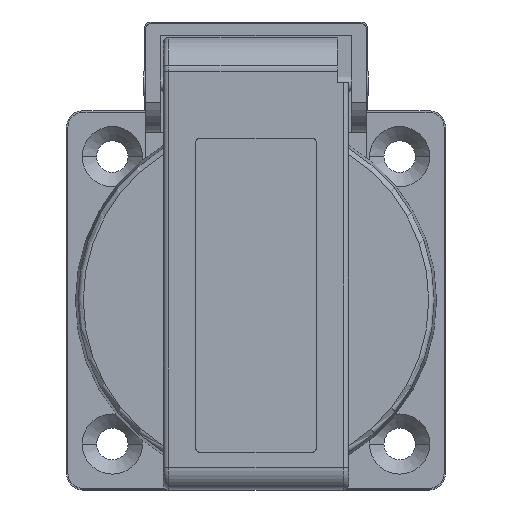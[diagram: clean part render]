
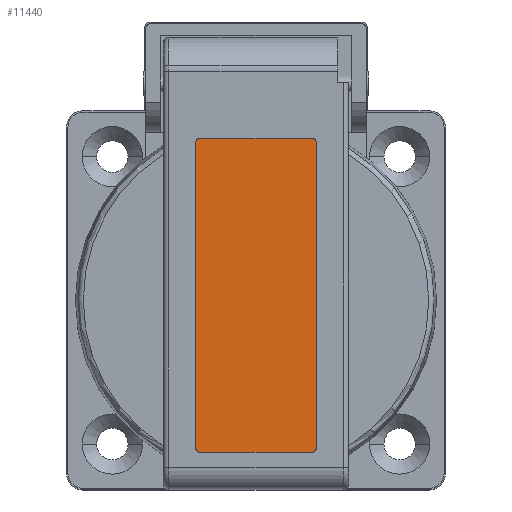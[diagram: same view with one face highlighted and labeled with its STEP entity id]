
A CAD part, top view. The second image highlights one B-rep face of the part: STEP entity #11440.
In plain terms, the highlighted planar face has unit normal (0, 0, 1).
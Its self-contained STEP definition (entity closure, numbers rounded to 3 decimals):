
#4236=CARTESIAN_POINT('',(-7.5,-19.7,13.8));
#4237=DIRECTION('',(0.,0.,1.));
#4238=DIRECTION('',(-1.,0.,0.));
#4239=AXIS2_PLACEMENT_3D('',#4236,#4237,#4238);
#4244=DIRECTION('',(0.,-1.,0.));
#4245=VECTOR('',#4244,40.7);
#4246=CARTESIAN_POINT('',(-8.,21.,13.8));
#4247=LINE('1462',#4246,#4245);
#4251=CARTESIAN_POINT('',(-7.5,21.,13.8));
#4252=DIRECTION('',(0.,0.,1.));
#4253=DIRECTION('',(0.,1.,0.));
#4254=AXIS2_PLACEMENT_3D('',#4251,#4252,#4253);
#4259=DIRECTION('',(-1.,0.,0.));
#4260=VECTOR('',#4259,15.);
#4261=CARTESIAN_POINT('',(7.5,21.5,13.8));
#4262=LINE('1461',#4261,#4260);
#4266=CARTESIAN_POINT('',(7.5,21.,13.8));
#4267=DIRECTION('',(0.,0.,1.));
#4268=DIRECTION('',(1.,0.,0.));
#4269=AXIS2_PLACEMENT_3D('',#4266,#4267,#4268);
#4274=DIRECTION('',(0.,1.,0.));
#4275=VECTOR('',#4274,40.7);
#4276=CARTESIAN_POINT('',(8.,-19.7,13.8));
#4277=LINE('1460',#4276,#4275);
#4281=CARTESIAN_POINT('',(7.5,-19.7,13.8));
#4282=DIRECTION('',(0.,0.,1.));
#4283=DIRECTION('',(0.,-1.,0.));
#4284=AXIS2_PLACEMENT_3D('',#4281,#4282,#4283);
#4289=DIRECTION('',(1.,0.,0.));
#4290=VECTOR('',#4289,15.);
#4291=CARTESIAN_POINT('',(-7.5,-20.2,13.8));
#4292=LINE('1459',#4291,#4290);
#6819=CARTESIAN_POINT('',(-8.,-19.7,13.8));
#6820=CARTESIAN_POINT('',(-7.5,-20.2,13.8));
#6821=VERTEX_POINT('',#6819);
#6822=VERTEX_POINT('',#6820);
#6827=CARTESIAN_POINT('',(7.5,-20.2,13.8));
#6828=CARTESIAN_POINT('',(8.,-19.7,13.8));
#6829=VERTEX_POINT('',#6827);
#6830=VERTEX_POINT('',#6828);
#6835=CARTESIAN_POINT('',(-7.5,21.5,13.8));
#6836=CARTESIAN_POINT('',(-8.,21.,13.8));
#6837=VERTEX_POINT('',#6835);
#6838=VERTEX_POINT('',#6836);
#6843=CARTESIAN_POINT('',(8.,21.,13.8));
#6844=CARTESIAN_POINT('',(7.5,21.5,13.8));
#6845=VERTEX_POINT('',#6843);
#6846=VERTEX_POINT('',#6844);
#11419=CARTESIAN_POINT('',(-12.3,0.,13.8));
#11420=DIRECTION('',(0.,0.,1.));
#11421=DIRECTION('',(0.,1.,0.));
#11422=AXIS2_PLACEMENT_3D('',#11419,#11420,#11421);
#11423=PLANE('1305',#11422);
#11424=ORIENTED_EDGE('1439',*,*,#11398,.F.);
#11426=ORIENTED_EDGE('1462',*,*,#11425,.F.);
#11428=ORIENTED_EDGE('1449',*,*,#11427,.F.);
#11430=ORIENTED_EDGE('1461',*,*,#11429,.F.);
#11432=ORIENTED_EDGE('1454',*,*,#11431,.F.);
#11434=ORIENTED_EDGE('1460',*,*,#11433,.F.);
#11436=ORIENTED_EDGE('1444',*,*,#11435,.F.);
#11437=ORIENTED_EDGE('1459',*,*,#11373,.F.);
#11438=EDGE_LOOP('1305',(#11424,#11426,#11428,#11430,#11432,#11434,#11436,
#11437));
#11439=FACE_OUTER_BOUND('1305',#11438,.F.);
#4240=CIRCLE('1439',#4239,0.5);
#4255=CIRCLE('1449',#4254,0.5);
#4270=CIRCLE('1454',#4269,0.5);
#4285=CIRCLE('1444',#4284,0.5);
#11373=EDGE_CURVE('1459',#6822,#6829,#4292,.T.);
#11398=EDGE_CURVE('1439',#6821,#6822,#4240,.T.);
#11425=EDGE_CURVE('1462',#6838,#6821,#4247,.T.);
#11427=EDGE_CURVE('1449',#6837,#6838,#4255,.T.);
#11429=EDGE_CURVE('1461',#6846,#6837,#4262,.T.);
#11431=EDGE_CURVE('1454',#6845,#6846,#4270,.T.);
#11433=EDGE_CURVE('1460',#6830,#6845,#4277,.T.);
#11435=EDGE_CURVE('1444',#6829,#6830,#4285,.T.);
#11440=ADVANCED_FACE('1305',(#11439),#11423,.T.);
